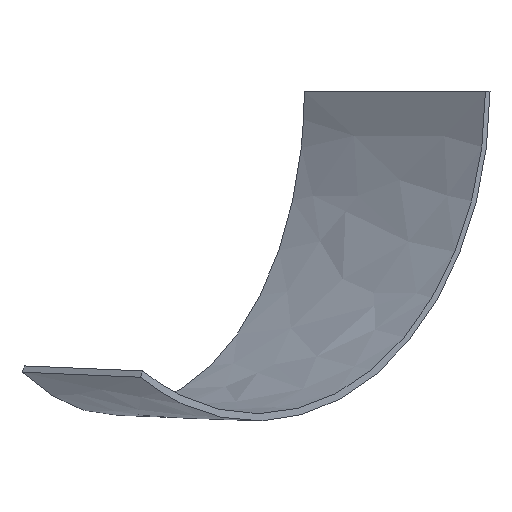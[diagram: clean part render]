
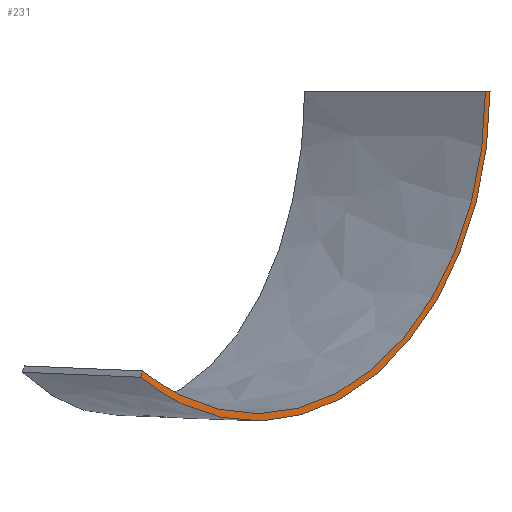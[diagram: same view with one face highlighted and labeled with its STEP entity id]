
A CAD part, left-side view. The second image highlights one B-rep face of the part: STEP entity #231.
In plain terms, the highlighted free-form (B-spline) face has degree [1, 3] with [2, 10] control points.
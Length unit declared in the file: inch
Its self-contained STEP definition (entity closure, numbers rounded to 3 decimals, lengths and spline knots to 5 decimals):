
#1 = EDGE_CURVE ( 'NONE', #127, #343, #68, .T. ) ;
#3 = CARTESIAN_POINT ( 'NONE',  ( 108.43024, -108.43024, -0.125 ) ) ;
#26 = FACE_OUTER_BOUND ( 'NONE', #317, .T. ) ;
#29 = EDGE_CURVE ( 'NONE', #433, #80, #380, .T. ) ;
#43 = CARTESIAN_POINT ( 'NONE',  ( 108.41478, -108.41478, -5.95664 ) ) ;
#44 = CARTESIAN_POINT ( 'NONE',  ( 72.87588, -72.87854, -29.58975 ) ) ;
#52 = CARTESIAN_POINT ( 'NONE',  ( 108.43024, -108.43024, -0.125 ) ) ;
#68 = B_SPLINE_CURVE_WITH_KNOTS ( 'NONE', 3,
 ( #445, #43, #292, #247, #326, #528, #487, #323, #88, #166 ),
 .UNSPECIFIED., .F., .F.,
 ( 4, 2, 2, 2, 4 ),
 ( 0., 0.25, 0.5, 0.75, 1. ),
 .UNSPECIFIED. ) ;
#80 = VERTEX_POINT ( 'NONE', #426 ) ;
#81 = CARTESIAN_POINT ( 'NONE',  ( 72.87588, -72.87854, -29.58975 ) ) ;
#86 = CARTESIAN_POINT ( 'NONE',  ( 100.59857, -100.51599, -26.54285 ) ) ;
#88 = CARTESIAN_POINT ( 'NONE',  ( 76.71951, -76.71951, -31.83572 ) ) ;
#90 = CARTESIAN_POINT ( 'NONE',  ( 108.99654, -108.88735, -6.08989 ) ) ;
#126 = CARTESIAN_POINT ( 'NONE',  ( 100.59857, -100.51599, -26.54285 ) ) ;
#127 = VERTEX_POINT ( 'NONE', #167 ) ;
#132 = CARTESIAN_POINT ( 'NONE',  ( 93.28488, -93.22527, -32.50634 ) ) ;
#140 = B_SPLINE_SURFACE_WITH_KNOTS ( 'NONE', 1, 3, ( 
 ( #347, #509, #245, #529, #126, #132, #413, #331, #329, #81 ),
 ( #3, #490, #527, #239, #291, #446, #447, #407, #198, #367 ) ),
 .UNSPECIFIED., .F., .F., .F.,
 ( 2, 2 ),
 ( 4, 2, 2, 2, 4 ),
 ( 0., 1. ),
 ( 0., 0.25, 0.5, 0.75, 1. ),
 .UNSPECIFIED. ) ;
#166 = CARTESIAN_POINT ( 'NONE',  ( 73.14065, -73.14065, -28.93883 ) ) ;
#167 = CARTESIAN_POINT ( 'NONE',  ( 108.43024, -108.43024, -0.125 ) ) ;
#175 = EDGE_CURVE ( 'NONE', #343, #80, #492, .T. ) ;
#185 = ORIENTED_EDGE ( 'NONE', *, *, #29, .F. ) ;
#198 = CARTESIAN_POINT ( 'NONE',  ( 76.71951, -76.71951, -31.83572 ) ) ;
#200 = B_SPLINE_CURVE_WITH_KNOTS ( 'NONE', 1,
 ( #52, #212 ),
 .UNSPECIFIED., .F., .F.,
 ( 2, 2 ),
 ( 0., 1. ),
 .UNSPECIFIED. ) ;
#212 = CARTESIAN_POINT ( 'NONE',  ( 109.01237, -108.90312, -0.1278 ) ) ;
#231 = ADVANCED_FACE ( 'NONE', ( #26 ), #140, .T. ) ;
#238 = ORIENTED_EDGE ( 'NONE', *, *, #175, .T. ) ;
#239 = CARTESIAN_POINT ( 'NONE',  ( 103.18097, -103.18097, -21.77089 ) ) ;
#244 = CARTESIAN_POINT ( 'NONE',  ( 80.69204, -80.67135, -34.10478 ) ) ;
#245 = CARTESIAN_POINT ( 'NONE',  ( 107.87362, -107.76799, -11.94245 ) ) ;
#247 = CARTESIAN_POINT ( 'NONE',  ( 103.18097, -103.18097, -21.77089 ) ) ;
#266 = CARTESIAN_POINT ( 'NONE',  ( 73.14065, -73.14065, -28.93883 ) ) ;
#286 = CARTESIAN_POINT ( 'NONE',  ( 93.28488, -93.22527, -32.50634 ) ) ;
#291 = CARTESIAN_POINT ( 'NONE',  ( 100.21277, -100.21277, -25.96069 ) ) ;
#292 = CARTESIAN_POINT ( 'NONE',  ( 107.31798, -107.31798, -11.68106 ) ) ;
#300 = CARTESIAN_POINT ( 'NONE',  ( 109.01237, -108.90312, -0.1278 ) ) ;
#306 = CARTESIAN_POINT ( 'NONE',  ( 73.14065, -73.14065, -28.93883 ) ) ;
#309 = ORIENTED_EDGE ( 'NONE', *, *, #1, .T. ) ;
#317 = EDGE_LOOP ( 'NONE', ( #515, #309, #238, #185 ) ) ;
#323 = CARTESIAN_POINT ( 'NONE',  ( 80.77339, -80.77339, -33.35462 ) ) ;
#326 = CARTESIAN_POINT ( 'NONE',  ( 100.21277, -100.21277, -25.96069 ) ) ;
#329 = CARTESIAN_POINT ( 'NONE',  ( 76.54064, -76.53248, -32.55181 ) ) ;
#331 = CARTESIAN_POINT ( 'NONE',  ( 80.69204, -80.67135, -34.10478 ) ) ;
#343 = VERTEX_POINT ( 'NONE', #306 ) ;
#347 = CARTESIAN_POINT ( 'NONE',  ( 109.01237, -108.90312, -0.1278 ) ) ;
#367 = CARTESIAN_POINT ( 'NONE',  ( 73.14065, -73.14065, -28.93883 ) ) ;
#369 = CARTESIAN_POINT ( 'NONE',  ( 103.63782, -103.5456, -22.25865 ) ) ;
#380 = B_SPLINE_CURVE_WITH_KNOTS ( 'NONE', 3,
 ( #449, #90, #406, #369, #86, #286, #444, #244, #411, #44 ),
 .UNSPECIFIED., .F., .F.,
 ( 4, 2, 2, 2, 4 ),
 ( 0., 0.25, 0.5, 0.75, 1. ),
 .UNSPECIFIED. ) ;
#406 = CARTESIAN_POINT ( 'NONE',  ( 107.87362, -107.76799, -11.94245 ) ) ;
#407 = CARTESIAN_POINT ( 'NONE',  ( 80.77339, -80.77339, -33.35462 ) ) ;
#411 = CARTESIAN_POINT ( 'NONE',  ( 76.54063, -76.53248, -32.5518 ) ) ;
#413 = CARTESIAN_POINT ( 'NONE',  ( 89.13763, -89.09098, -34.08184 ) ) ;
#424 = EDGE_CURVE ( 'NONE', #127, #433, #200, .T. ) ;
#426 = CARTESIAN_POINT ( 'NONE',  ( 72.87588, -72.87854, -29.58975 ) ) ;
#428 = CARTESIAN_POINT ( 'NONE',  ( 72.87588, -72.87854, -29.58975 ) ) ;
#433 = VERTEX_POINT ( 'NONE', #300 ) ;
#444 = CARTESIAN_POINT ( 'NONE',  ( 89.13763, -89.09098, -34.08184 ) ) ;
#445 = CARTESIAN_POINT ( 'NONE',  ( 108.43024, -108.43024, -0.125 ) ) ;
#446 = CARTESIAN_POINT ( 'NONE',  ( 93.07045, -93.07045, -31.79238 ) ) ;
#447 = CARTESIAN_POINT ( 'NONE',  ( 89.02062, -89.02062, -33.33276 ) ) ;
#449 = CARTESIAN_POINT ( 'NONE',  ( 109.01237, -108.90312, -0.1278 ) ) ;
#487 = CARTESIAN_POINT ( 'NONE',  ( 89.02062, -89.02062, -33.33276 ) ) ;
#490 = CARTESIAN_POINT ( 'NONE',  ( 108.41478, -108.41478, -5.95664 ) ) ;
#492 = B_SPLINE_CURVE_WITH_KNOTS ( 'NONE', 1,
 ( #266, #428 ),
 .UNSPECIFIED., .F., .F.,
 ( 2, 2 ),
 ( 0., 1. ),
 .UNSPECIFIED. ) ;
#509 = CARTESIAN_POINT ( 'NONE',  ( 108.99654, -108.88735, -6.08989 ) ) ;
#515 = ORIENTED_EDGE ( 'NONE', *, *, #424, .F. ) ;
#527 = CARTESIAN_POINT ( 'NONE',  ( 107.31798, -107.31798, -11.68106 ) ) ;
#528 = CARTESIAN_POINT ( 'NONE',  ( 93.07045, -93.07045, -31.79238 ) ) ;
#529 = CARTESIAN_POINT ( 'NONE',  ( 103.63782, -103.5456, -22.25865 ) ) ;
